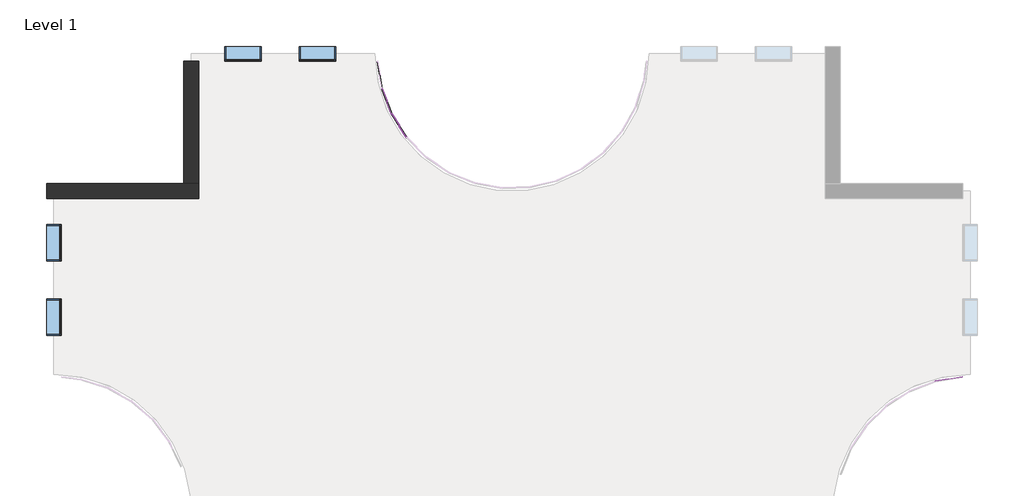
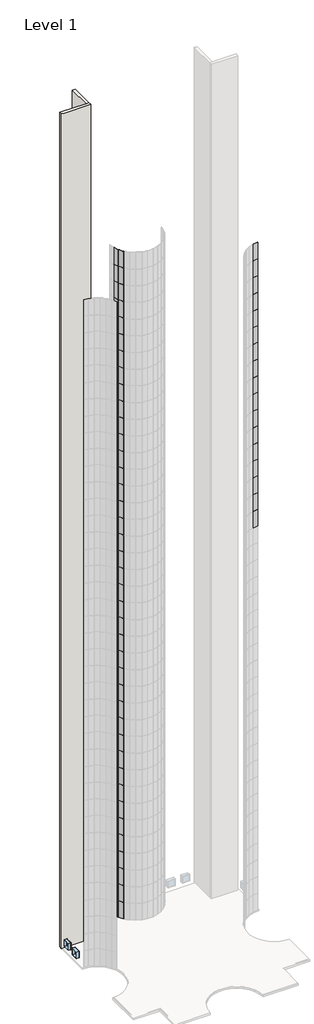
# One storey, part 15 of 19: 121 plates, 4 windows, 2 walls.
"""IFC4 building model written with IfcOpenShell, lengths in millimetres."""

from ifc_helpers import new_model, si_unit, origin, origin_with_axes, place, context, project, spatial, polyline, outline, extrude, faceted_brep, transform, mapped, element, save
from components import system_panel_glazed_d77d1ebf, window_d0035ecf, window_d434eb62

model = new_model("IFC4")

# Units and contexts
model_context = context("Model", 3, world=origin())
ifc_project = project(units=[si_unit("LENGTHUNIT", "METRE", prefix="MILLI")], contexts=[model_context])

# Site, building, storey
site = spatial("IfcSite", under=ifc_project)
building = spatial("IfcBuilding", under=site)
storey = spatial("IfcBuildingStorey", under=building, Name="Level 1", Elevation=0.0)

# Plates
placement = place(None, origin())
system_panel_glazed_shape = system_panel_glazed_d77d1ebf(model_context)
element("IfcPlate", 1, ObjectType="System Panel : Glazed", at=placement, inside=storey, context=model_context, shape_type="MappedRepresentation", body=[
    mapped(system_panel_glazed_shape, transform((-850.898382, 8349.4333414, 0.0), x_axis=(0.15870983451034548, -0.9873252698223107, 0.0), y_axis=(0.9873252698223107, 0.15870983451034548, 0.0), z_axis=(0.0, 0.0, 1.0))),
])
element("IfcPlate", 2, ObjectType="System Panel : Glazed", at=placement, inside=storey, context=model_context, shape_type="MappedRepresentation", body=[
    mapped(system_panel_glazed_shape, transform((-850.898382, 8349.4333414, 3048.0), x_axis=(0.15870983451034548, -0.9873252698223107, 0.0), y_axis=(0.9873252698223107, 0.15870983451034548, 0.0), z_axis=(0.0, 0.0, 1.0))),
])
element("IfcPlate", 3, ObjectType="System Panel : Glazed", at=placement, inside=storey, context=model_context, shape_type="MappedRepresentation", body=[
    mapped(system_panel_glazed_shape, transform((-850.898382, 8349.4333414, 6096.0), x_axis=(0.15870983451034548, -0.9873252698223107, 0.0), y_axis=(0.9873252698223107, 0.15870983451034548, 0.0), z_axis=(0.0, 0.0, 1.0))),
])
element("IfcPlate", 4, ObjectType="System Panel : Glazed", at=placement, inside=storey, context=model_context, shape_type="MappedRepresentation", body=[
    mapped(system_panel_glazed_shape, transform((-850.898382, 8349.4333414, 9144.0), x_axis=(0.15870983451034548, -0.9873252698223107, 0.0), y_axis=(0.9873252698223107, 0.15870983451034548, 0.0), z_axis=(0.0, 0.0, 1.0))),
])
element("IfcPlate", 5, ObjectType="System Panel : Glazed", at=placement, inside=storey, context=model_context, shape_type="MappedRepresentation", body=[
    mapped(system_panel_glazed_shape, transform((-850.898382, 8349.4333414, 12192.0), x_axis=(0.15870983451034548, -0.9873252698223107, 0.0), y_axis=(0.9873252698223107, 0.15870983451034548, 0.0), z_axis=(0.0, 0.0, 1.0))),
])
element("IfcPlate", 6, ObjectType="System Panel : Glazed", at=placement, inside=storey, context=model_context, shape_type="MappedRepresentation", body=[
    mapped(system_panel_glazed_shape, transform((-850.898382, 8349.4333414, 15240.0), x_axis=(0.15870983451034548, -0.9873252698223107, 0.0), y_axis=(0.9873252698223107, 0.15870983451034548, 0.0), z_axis=(0.0, 0.0, 1.0))),
])
element("IfcPlate", 7, ObjectType="System Panel : Glazed", at=placement, inside=storey, context=model_context, shape_type="MappedRepresentation", body=[
    mapped(system_panel_glazed_shape, transform((-850.898382, 8349.4333414, 18288.0), x_axis=(0.15870983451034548, -0.9873252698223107, 0.0), y_axis=(0.9873252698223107, 0.15870983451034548, 0.0), z_axis=(0.0, 0.0, 1.0))),
])
element("IfcPlate", 8, ObjectType="System Panel : Glazed", at=placement, inside=storey, context=model_context, shape_type="MappedRepresentation", body=[
    mapped(system_panel_glazed_shape, transform((-850.898382, 8349.4333414, 21336.0), x_axis=(0.15870983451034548, -0.9873252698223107, 0.0), y_axis=(0.9873252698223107, 0.15870983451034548, 0.0), z_axis=(0.0, 0.0, 1.0))),
])
element("IfcPlate", 9, ObjectType="System Panel : Glazed", at=placement, inside=storey, context=model_context, shape_type="MappedRepresentation", body=[
    mapped(system_panel_glazed_shape, transform((-850.898382, 8349.4333414, 24384.0), x_axis=(0.15870983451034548, -0.9873252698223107, 0.0), y_axis=(0.9873252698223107, 0.15870983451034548, 0.0), z_axis=(0.0, 0.0, 1.0))),
])
element("IfcPlate", 10, ObjectType="System Panel : Glazed", at=placement, inside=storey, context=model_context, shape_type="MappedRepresentation", body=[
    mapped(system_panel_glazed_shape, transform((-850.898382, 8349.4333414, 27432.0), x_axis=(0.15870983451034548, -0.9873252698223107, 0.0), y_axis=(0.9873252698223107, 0.15870983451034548, 0.0), z_axis=(0.0, 0.0, 1.0))),
])
element("IfcPlate", 11, ObjectType="System Panel : Glazed", at=placement, inside=storey, context=model_context, shape_type="MappedRepresentation", body=[
    mapped(system_panel_glazed_shape, transform((-850.898382, 8349.4333414, 30480.0), x_axis=(0.15870983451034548, -0.9873252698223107, 0.0), y_axis=(0.9873252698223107, 0.15870983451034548, 0.0), z_axis=(0.0, 0.0, 1.0))),
])
element("IfcPlate", 12, ObjectType="System Panel : Glazed", at=placement, inside=storey, context=model_context, shape_type="MappedRepresentation", body=[
    mapped(system_panel_glazed_shape, transform((-850.898382, 8349.4333414, 33528.0), x_axis=(0.15870983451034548, -0.9873252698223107, 0.0), y_axis=(0.9873252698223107, 0.15870983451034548, 0.0), z_axis=(0.0, 0.0, 1.0))),
])
element("IfcPlate", 13, ObjectType="System Panel : Glazed", at=placement, inside=storey, context=model_context, shape_type="MappedRepresentation", body=[
    mapped(system_panel_glazed_shape, transform((-850.898382, 8349.4333414, 36576.0), x_axis=(0.15870983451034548, -0.9873252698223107, 0.0), y_axis=(0.9873252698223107, 0.15870983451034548, 0.0), z_axis=(0.0, 0.0, 1.0))),
])
element("IfcPlate", 14, ObjectType="System Panel : Glazed", at=placement, inside=storey, context=model_context, shape_type="MappedRepresentation", body=[
    mapped(system_panel_glazed_shape, transform((-850.898382, 8349.4333414, 39624.0), x_axis=(0.15870983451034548, -0.9873252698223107, 0.0), y_axis=(0.9873252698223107, 0.15870983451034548, 0.0), z_axis=(0.0, 0.0, 1.0))),
])
element("IfcPlate", 15, ObjectType="System Panel : Glazed", at=placement, inside=storey, context=model_context, shape_type="MappedRepresentation", body=[
    mapped(system_panel_glazed_shape, transform((-850.898382, 8349.4333414, 42672.0), x_axis=(0.15870983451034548, -0.9873252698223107, 0.0), y_axis=(0.9873252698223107, 0.15870983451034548, 0.0), z_axis=(0.0, 0.0, 1.0))),
])
element("IfcPlate", 16, ObjectType="System Panel : Glazed", at=placement, inside=storey, context=model_context, shape_type="MappedRepresentation", body=[
    mapped(system_panel_glazed_shape, transform((-850.898382, 8349.4333414, 45720.0), x_axis=(0.15870983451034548, -0.9873252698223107, 0.0), y_axis=(0.9873252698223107, 0.15870983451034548, 0.0), z_axis=(0.0, 0.0, 1.0))),
])
element("IfcPlate", 17, ObjectType="System Panel : Glazed", at=placement, inside=storey, context=model_context, shape_type="MappedRepresentation", body=[
    mapped(system_panel_glazed_shape, transform((-850.898382, 8349.4333414, 48768.0), x_axis=(0.15870983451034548, -0.9873252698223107, 0.0), y_axis=(0.9873252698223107, 0.15870983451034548, 0.0), z_axis=(0.0, 0.0, 1.0))),
])
element("IfcPlate", 18, ObjectType="System Panel : Glazed", at=placement, inside=storey, context=model_context, shape_type="MappedRepresentation", body=[
    mapped(system_panel_glazed_shape, transform((-850.898382, 8349.4333414, 51816.0), x_axis=(0.15870983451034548, -0.9873252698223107, 0.0), y_axis=(0.9873252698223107, 0.15870983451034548, 0.0), z_axis=(0.0, 0.0, 1.0))),
])
element("IfcPlate", 19, ObjectType="System Panel : Glazed", at=placement, inside=storey, context=model_context, shape_type="MappedRepresentation", body=[
    mapped(system_panel_glazed_shape, transform((-850.898382, 8349.4333414, 54864.0), x_axis=(0.15870983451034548, -0.9873252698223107, 0.0), y_axis=(0.9873252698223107, 0.15870983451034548, 0.0), z_axis=(0.0, 0.0, 1.0))),
])
element("IfcPlate", 20, ObjectType="System Panel : Glazed", at=placement, inside=storey, context=model_context, shape_type="MappedRepresentation", body=[
    mapped(system_panel_glazed_shape, transform((-850.898382, 8349.4333414, 57912.0), x_axis=(0.15870983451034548, -0.9873252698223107, 0.0), y_axis=(0.9873252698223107, 0.15870983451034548, 0.0), z_axis=(0.0, 0.0, 1.0))),
])
element("IfcPlate", 21, ObjectType="System Panel : Glazed", at=placement, inside=storey, context=model_context, shape_type="MappedRepresentation", body=[
    mapped(system_panel_glazed_shape, transform((-850.898382, 8349.4333414, 60960.0), x_axis=(0.15870983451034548, -0.9873252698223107, 0.0), y_axis=(0.9873252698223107, 0.15870983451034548, 0.0), z_axis=(0.0, 0.0, 1.0))),
])
element("IfcPlate", 22, ObjectType="System Panel : Glazed", at=placement, inside=storey, context=model_context, shape_type="MappedRepresentation", body=[
    mapped(system_panel_glazed_shape, transform((-850.898382, 8349.4333414, 64008.0), x_axis=(0.15870983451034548, -0.9873252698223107, 0.0), y_axis=(0.9873252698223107, 0.15870983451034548, 0.0), z_axis=(0.0, 0.0, 1.0))),
])
element("IfcPlate", 23, ObjectType="System Panel : Glazed", at=placement, inside=storey, context=model_context, shape_type="MappedRepresentation", body=[
    mapped(system_panel_glazed_shape, transform((-850.898382, 8349.4333414, 67056.0), x_axis=(0.15870983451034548, -0.9873252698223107, 0.0), y_axis=(0.9873252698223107, 0.15870983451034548, 0.0), z_axis=(0.0, 0.0, 1.0))),
])
element("IfcPlate", 24, ObjectType="System Panel : Glazed", at=placement, inside=storey, context=model_context, shape_type="MappedRepresentation", body=[
    mapped(system_panel_glazed_shape, transform((-850.898382, 8349.4333414, 70104.0), x_axis=(0.15870983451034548, -0.9873252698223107, 0.0), y_axis=(0.9873252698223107, 0.15870983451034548, 0.0), z_axis=(0.0, 0.0, 1.0))),
])
element("IfcPlate", 25, ObjectType="System Panel : Glazed", at=placement, inside=storey, context=model_context, shape_type="MappedRepresentation", body=[
    mapped(system_panel_glazed_shape, transform((18055.406941, -1819.8011089, 70104.0), x_axis=(-0.9873252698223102, -0.1587098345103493, 0.0), y_axis=(0.1587098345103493, -0.9873252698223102, 0.0), z_axis=(0.0, 0.0, 1.0))),
])
element("IfcPlate", 26, ObjectType="System Panel : Glazed", at=placement, inside=storey, context=model_context, shape_type="MappedRepresentation", body=[
    mapped(system_panel_glazed_shape, transform((18055.406941, -1819.8011089, 73152.0), x_axis=(-0.9873252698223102, -0.1587098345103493, 0.0), y_axis=(0.1587098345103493, -0.9873252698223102, 0.0), z_axis=(0.0, 0.0, 1.0))),
])
element("IfcPlate", 27, ObjectType="System Panel : Glazed", at=placement, inside=storey, context=model_context, shape_type="MappedRepresentation", body=[
    mapped(system_panel_glazed_shape, transform((18055.406941, -1819.8011089, 76200.0), x_axis=(-0.9873252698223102, -0.1587098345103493, 0.0), y_axis=(0.1587098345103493, -0.9873252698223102, 0.0), z_axis=(0.0, 0.0, 1.0))),
])
element("IfcPlate", 28, ObjectType="System Panel : Glazed", at=placement, inside=storey, context=model_context, shape_type="MappedRepresentation", body=[
    mapped(system_panel_glazed_shape, transform((18055.406941, -1819.8011089, 79248.0), x_axis=(-0.9873252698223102, -0.1587098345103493, 0.0), y_axis=(0.1587098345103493, -0.9873252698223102, 0.0), z_axis=(0.0, 0.0, 1.0))),
])
element("IfcPlate", 29, ObjectType="System Panel : Glazed", at=placement, inside=storey, context=model_context, shape_type="MappedRepresentation", body=[
    mapped(system_panel_glazed_shape, transform((18055.406941, -1819.8011089, 82296.0), x_axis=(-0.9873252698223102, -0.1587098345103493, 0.0), y_axis=(0.1587098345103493, -0.9873252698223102, 0.0), z_axis=(0.0, 0.0, 1.0))),
])
element("IfcPlate", 30, ObjectType="System Panel : Glazed", at=placement, inside=storey, context=model_context, shape_type="MappedRepresentation", body=[
    mapped(system_panel_glazed_shape, transform((18055.406941, -1819.8011089, 85344.0), x_axis=(-0.9873252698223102, -0.1587098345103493, 0.0), y_axis=(0.1587098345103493, -0.9873252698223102, 0.0), z_axis=(0.0, 0.0, 1.0))),
])
element("IfcPlate", 31, ObjectType="System Panel : Glazed", at=placement, inside=storey, context=model_context, shape_type="MappedRepresentation", body=[
    mapped(system_panel_glazed_shape, transform((18055.406941, -1819.8011089, 88392.0), x_axis=(-0.9873252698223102, -0.1587098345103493, 0.0), y_axis=(0.1587098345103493, -0.9873252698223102, 0.0), z_axis=(0.0, 0.0, 1.0))),
])
element("IfcPlate", 32, ObjectType="System Panel : Glazed", at=placement, inside=storey, context=model_context, shape_type="MappedRepresentation", body=[
    mapped(system_panel_glazed_shape, transform((18055.406941, -1819.8011089, 91440.0), x_axis=(-0.9873252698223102, -0.1587098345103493, 0.0), y_axis=(0.1587098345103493, -0.9873252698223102, 0.0), z_axis=(0.0, 0.0, 1.0))),
])
element("IfcPlate", 33, ObjectType="System Panel : Glazed", at=placement, inside=storey, context=model_context, shape_type="MappedRepresentation", body=[
    mapped(system_panel_glazed_shape, transform((18055.406941, -1819.8011089, 94488.0), x_axis=(-0.9873252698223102, -0.1587098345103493, 0.0), y_axis=(0.1587098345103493, -0.9873252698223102, 0.0), z_axis=(0.0, 0.0, 1.0))),
])
element("IfcPlate", 34, ObjectType="System Panel : Glazed", at=placement, inside=storey, context=model_context, shape_type="MappedRepresentation", body=[
    mapped(system_panel_glazed_shape, transform((18055.406941, -1819.8011089, 97536.0), x_axis=(-0.9873252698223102, -0.1587098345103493, 0.0), y_axis=(0.1587098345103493, -0.9873252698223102, 0.0), z_axis=(0.0, 0.0, 1.0))),
])
element("IfcPlate", 35, ObjectType="System Panel : Glazed", at=placement, inside=storey, context=model_context, shape_type="MappedRepresentation", body=[
    mapped(system_panel_glazed_shape, transform((18055.406941, -1819.8011089, 100584.0), x_axis=(-0.9873252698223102, -0.1587098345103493, 0.0), y_axis=(0.1587098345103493, -0.9873252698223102, 0.0), z_axis=(0.0, 0.0, 1.0))),
])
element("IfcPlate", 36, ObjectType="System Panel : Glazed", at=placement, inside=storey, context=model_context, shape_type="MappedRepresentation", body=[
    mapped(system_panel_glazed_shape, transform((18055.406941, -1819.8011089, 103632.0), x_axis=(-0.9873252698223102, -0.1587098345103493, 0.0), y_axis=(0.1587098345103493, -0.9873252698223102, 0.0), z_axis=(0.0, 0.0, 1.0))),
])
element("IfcPlate", 37, ObjectType="System Panel : Glazed", at=placement, inside=storey, context=model_context, shape_type="MappedRepresentation", body=[
    mapped(system_panel_glazed_shape, transform((18055.406941, -1819.8011089, 106680.0), x_axis=(-0.9873252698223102, -0.1587098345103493, 0.0), y_axis=(0.1587098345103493, -0.9873252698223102, 0.0), z_axis=(0.0, 0.0, 1.0))),
])
element("IfcPlate", 38, ObjectType="System Panel : Glazed", at=placement, inside=storey, context=model_context, shape_type="MappedRepresentation", body=[
    mapped(system_panel_glazed_shape, transform((18055.406941, -1819.8011089, 109728.0), x_axis=(-0.9873252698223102, -0.1587098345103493, 0.0), y_axis=(0.1587098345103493, -0.9873252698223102, 0.0), z_axis=(0.0, 0.0, 1.0))),
])
element("IfcPlate", 39, ObjectType="System Panel : Glazed", at=placement, inside=storey, context=model_context, shape_type="MappedRepresentation", body=[
    mapped(system_panel_glazed_shape, transform((18055.406941, -1819.8011089, 112776.0), x_axis=(-0.9873252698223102, -0.1587098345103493, 0.0), y_axis=(0.1587098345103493, -0.9873252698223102, 0.0), z_axis=(0.0, 0.0, 1.0))),
])
element("IfcPlate", 40, ObjectType="System Panel : Glazed", at=placement, inside=storey, context=model_context, shape_type="MappedRepresentation", body=[
    mapped(system_panel_glazed_shape, transform((18055.406941, -1819.8011089, 115824.0), x_axis=(-0.9873252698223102, -0.1587098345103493, 0.0), y_axis=(0.1587098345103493, -0.9873252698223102, 0.0), z_axis=(0.0, 0.0, 1.0))),
])
element("IfcPlate", 41, ObjectType="System Panel : Glazed", at=placement, inside=storey, context=model_context, shape_type="MappedRepresentation", body=[
    mapped(system_panel_glazed_shape, transform((18055.406941, -1819.8011089, 118872.0), x_axis=(-0.9873252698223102, -0.1587098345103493, 0.0), y_axis=(0.1587098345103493, -0.9873252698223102, 0.0), z_axis=(0.0, 0.0, 1.0))),
])
element("IfcPlate", 42, ObjectType="System Panel : Glazed", at=placement, inside=storey, context=model_context, shape_type="MappedRepresentation", body=[
    mapped(system_panel_glazed_shape, transform((-615.0045383, 7470.9982602, 0.0), x_axis=(0.35724345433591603, -0.9340113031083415, 0.0), y_axis=(0.9340113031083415, 0.35724345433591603, 0.0), z_axis=(0.0, 0.0, 1.0))),
])
element("IfcPlate", 43, ObjectType="System Panel : Glazed", at=placement, inside=storey, context=model_context, shape_type="MappedRepresentation", body=[
    mapped(system_panel_glazed_shape, transform((-615.0045383, 7470.9982602, 3048.0), x_axis=(0.35724345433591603, -0.9340113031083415, 0.0), y_axis=(0.9340113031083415, 0.35724345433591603, 0.0), z_axis=(0.0, 0.0, 1.0))),
])
element("IfcPlate", 44, ObjectType="System Panel : Glazed", at=placement, inside=storey, context=model_context, shape_type="MappedRepresentation", body=[
    mapped(system_panel_glazed_shape, transform((-615.0045383, 7470.9982602, 6096.0), x_axis=(0.35724345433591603, -0.9340113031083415, 0.0), y_axis=(0.9340113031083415, 0.35724345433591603, 0.0), z_axis=(0.0, 0.0, 1.0))),
])
element("IfcPlate", 45, ObjectType="System Panel : Glazed", at=placement, inside=storey, context=model_context, shape_type="MappedRepresentation", body=[
    mapped(system_panel_glazed_shape, transform((-615.0045383, 7470.9982602, 9144.0), x_axis=(0.35724345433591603, -0.9340113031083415, 0.0), y_axis=(0.9340113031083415, 0.35724345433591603, 0.0), z_axis=(0.0, 0.0, 1.0))),
])
element("IfcPlate", 46, ObjectType="System Panel : Glazed", at=placement, inside=storey, context=model_context, shape_type="MappedRepresentation", body=[
    mapped(system_panel_glazed_shape, transform((-615.0045383, 7470.9982602, 12192.0), x_axis=(0.35724345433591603, -0.9340113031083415, 0.0), y_axis=(0.9340113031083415, 0.35724345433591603, 0.0), z_axis=(0.0, 0.0, 1.0))),
])
element("IfcPlate", 47, ObjectType="System Panel : Glazed", at=placement, inside=storey, context=model_context, shape_type="MappedRepresentation", body=[
    mapped(system_panel_glazed_shape, transform((-615.0045383, 7470.9982602, 15240.0), x_axis=(0.35724345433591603, -0.9340113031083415, 0.0), y_axis=(0.9340113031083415, 0.35724345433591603, 0.0), z_axis=(0.0, 0.0, 1.0))),
])
element("IfcPlate", 48, ObjectType="System Panel : Glazed", at=placement, inside=storey, context=model_context, shape_type="MappedRepresentation", body=[
    mapped(system_panel_glazed_shape, transform((-615.0045383, 7470.9982602, 18288.0), x_axis=(0.35724345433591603, -0.9340113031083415, 0.0), y_axis=(0.9340113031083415, 0.35724345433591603, 0.0), z_axis=(0.0, 0.0, 1.0))),
])
element("IfcPlate", 49, ObjectType="System Panel : Glazed", at=placement, inside=storey, context=model_context, shape_type="MappedRepresentation", body=[
    mapped(system_panel_glazed_shape, transform((-615.0045383, 7470.9982602, 21336.0), x_axis=(0.35724345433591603, -0.9340113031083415, 0.0), y_axis=(0.9340113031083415, 0.35724345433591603, 0.0), z_axis=(0.0, 0.0, 1.0))),
])
element("IfcPlate", 50, ObjectType="System Panel : Glazed", at=placement, inside=storey, context=model_context, shape_type="MappedRepresentation", body=[
    mapped(system_panel_glazed_shape, transform((-615.0045383, 7470.9982602, 24384.0), x_axis=(0.35724345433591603, -0.9340113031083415, 0.0), y_axis=(0.9340113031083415, 0.35724345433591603, 0.0), z_axis=(0.0, 0.0, 1.0))),
])
element("IfcPlate", 51, ObjectType="System Panel : Glazed", at=placement, inside=storey, context=model_context, shape_type="MappedRepresentation", body=[
    mapped(system_panel_glazed_shape, transform((-615.0045383, 7470.9982602, 27432.0), x_axis=(0.35724345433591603, -0.9340113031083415, 0.0), y_axis=(0.9340113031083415, 0.35724345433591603, 0.0), z_axis=(0.0, 0.0, 1.0))),
])
element("IfcPlate", 52, ObjectType="System Panel : Glazed", at=placement, inside=storey, context=model_context, shape_type="MappedRepresentation", body=[
    mapped(system_panel_glazed_shape, transform((-615.0045383, 7470.9982602, 30480.0), x_axis=(0.35724345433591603, -0.9340113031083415, 0.0), y_axis=(0.9340113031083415, 0.35724345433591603, 0.0), z_axis=(0.0, 0.0, 1.0))),
])
element("IfcPlate", 53, ObjectType="System Panel : Glazed", at=placement, inside=storey, context=model_context, shape_type="MappedRepresentation", body=[
    mapped(system_panel_glazed_shape, transform((-615.0045383, 7470.9982602, 33528.0), x_axis=(0.35724345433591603, -0.9340113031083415, 0.0), y_axis=(0.9340113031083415, 0.35724345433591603, 0.0), z_axis=(0.0, 0.0, 1.0))),
])
element("IfcPlate", 54, ObjectType="System Panel : Glazed", at=placement, inside=storey, context=model_context, shape_type="MappedRepresentation", body=[
    mapped(system_panel_glazed_shape, transform((-615.0045383, 7470.9982602, 36576.0), x_axis=(0.35724345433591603, -0.9340113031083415, 0.0), y_axis=(0.9340113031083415, 0.35724345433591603, 0.0), z_axis=(0.0, 0.0, 1.0))),
])
element("IfcPlate", 55, ObjectType="System Panel : Glazed", at=placement, inside=storey, context=model_context, shape_type="MappedRepresentation", body=[
    mapped(system_panel_glazed_shape, transform((-615.0045383, 7470.9982602, 39624.0), x_axis=(0.35724345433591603, -0.9340113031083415, 0.0), y_axis=(0.9340113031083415, 0.35724345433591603, 0.0), z_axis=(0.0, 0.0, 1.0))),
])
element("IfcPlate", 56, ObjectType="System Panel : Glazed", at=placement, inside=storey, context=model_context, shape_type="MappedRepresentation", body=[
    mapped(system_panel_glazed_shape, transform((-615.0045383, 7470.9982602, 42672.0), x_axis=(0.35724345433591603, -0.9340113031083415, 0.0), y_axis=(0.9340113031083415, 0.35724345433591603, 0.0), z_axis=(0.0, 0.0, 1.0))),
])
element("IfcPlate", 57, ObjectType="System Panel : Glazed", at=placement, inside=storey, context=model_context, shape_type="MappedRepresentation", body=[
    mapped(system_panel_glazed_shape, transform((-615.0045383, 7470.9982602, 45720.0), x_axis=(0.35724345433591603, -0.9340113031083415, 0.0), y_axis=(0.9340113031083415, 0.35724345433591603, 0.0), z_axis=(0.0, 0.0, 1.0))),
])
element("IfcPlate", 58, ObjectType="System Panel : Glazed", at=placement, inside=storey, context=model_context, shape_type="MappedRepresentation", body=[
    mapped(system_panel_glazed_shape, transform((-615.0045383, 7470.9982602, 48768.0), x_axis=(0.35724345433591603, -0.9340113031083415, 0.0), y_axis=(0.9340113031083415, 0.35724345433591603, 0.0), z_axis=(0.0, 0.0, 1.0))),
])
element("IfcPlate", 59, ObjectType="System Panel : Glazed", at=placement, inside=storey, context=model_context, shape_type="MappedRepresentation", body=[
    mapped(system_panel_glazed_shape, transform((-615.0045383, 7470.9982602, 51816.0), x_axis=(0.35724345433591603, -0.9340113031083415, 0.0), y_axis=(0.9340113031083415, 0.35724345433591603, 0.0), z_axis=(0.0, 0.0, 1.0))),
])
element("IfcPlate", 60, ObjectType="System Panel : Glazed", at=placement, inside=storey, context=model_context, shape_type="MappedRepresentation", body=[
    mapped(system_panel_glazed_shape, transform((-615.0045383, 7470.9982602, 54864.0), x_axis=(0.35724345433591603, -0.9340113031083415, 0.0), y_axis=(0.9340113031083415, 0.35724345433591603, 0.0), z_axis=(0.0, 0.0, 1.0))),
])
element("IfcPlate", 61, ObjectType="System Panel : Glazed", at=placement, inside=storey, context=model_context, shape_type="MappedRepresentation", body=[
    mapped(system_panel_glazed_shape, transform((-615.0045383, 7470.9982602, 57912.0), x_axis=(0.35724345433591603, -0.9340113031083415, 0.0), y_axis=(0.9340113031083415, 0.35724345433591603, 0.0), z_axis=(0.0, 0.0, 1.0))),
])
element("IfcPlate", 62, ObjectType="System Panel : Glazed", at=placement, inside=storey, context=model_context, shape_type="MappedRepresentation", body=[
    mapped(system_panel_glazed_shape, transform((-615.0045383, 7470.9982602, 60960.0), x_axis=(0.35724345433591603, -0.9340113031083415, 0.0), y_axis=(0.9340113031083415, 0.35724345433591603, 0.0), z_axis=(0.0, 0.0, 1.0))),
])
element("IfcPlate", 63, ObjectType="System Panel : Glazed", at=placement, inside=storey, context=model_context, shape_type="MappedRepresentation", body=[
    mapped(system_panel_glazed_shape, transform((-615.0045383, 7470.9982602, 64008.0), x_axis=(0.35724345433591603, -0.9340113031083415, 0.0), y_axis=(0.9340113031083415, 0.35724345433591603, 0.0), z_axis=(0.0, 0.0, 1.0))),
])
element("IfcPlate", 64, ObjectType="System Panel : Glazed", at=placement, inside=storey, context=model_context, shape_type="MappedRepresentation", body=[
    mapped(system_panel_glazed_shape, transform((-615.0045383, 7470.9982602, 67056.0), x_axis=(0.35724345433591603, -0.9340113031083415, 0.0), y_axis=(0.9340113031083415, 0.35724345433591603, 0.0), z_axis=(0.0, 0.0, 1.0))),
])
element("IfcPlate", 65, ObjectType="System Panel : Glazed", at=placement, inside=storey, context=model_context, shape_type="MappedRepresentation", body=[
    mapped(system_panel_glazed_shape, transform((-615.0045383, 7470.9982602, 70104.0), x_axis=(0.35724345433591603, -0.9340113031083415, 0.0), y_axis=(0.9340113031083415, 0.35724345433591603, 0.0), z_axis=(0.0, 0.0, 1.0))),
])
element("IfcPlate", 66, ObjectType="System Panel : Glazed", at=placement, inside=storey, context=model_context, shape_type="MappedRepresentation", body=[
    mapped(system_panel_glazed_shape, transform((-615.0045383, 7470.9982602, 73152.0), x_axis=(0.35724345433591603, -0.9340113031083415, 0.0), y_axis=(0.9340113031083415, 0.35724345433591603, 0.0), z_axis=(0.0, 0.0, 1.0))),
])
element("IfcPlate", 67, ObjectType="System Panel : Glazed", at=placement, inside=storey, context=model_context, shape_type="MappedRepresentation", body=[
    mapped(system_panel_glazed_shape, transform((-615.0045383, 7470.9982602, 76200.0), x_axis=(0.35724345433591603, -0.9340113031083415, 0.0), y_axis=(0.9340113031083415, 0.35724345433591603, 0.0), z_axis=(0.0, 0.0, 1.0))),
])
element("IfcPlate", 68, ObjectType="System Panel : Glazed", at=placement, inside=storey, context=model_context, shape_type="MappedRepresentation", body=[
    mapped(system_panel_glazed_shape, transform((-615.0045383, 7470.9982602, 79248.0), x_axis=(0.35724345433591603, -0.9340113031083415, 0.0), y_axis=(0.9340113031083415, 0.35724345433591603, 0.0), z_axis=(0.0, 0.0, 1.0))),
])
element("IfcPlate", 69, ObjectType="System Panel : Glazed", at=placement, inside=storey, context=model_context, shape_type="MappedRepresentation", body=[
    mapped(system_panel_glazed_shape, transform((-615.0045383, 7470.9982602, 82296.0), x_axis=(0.35724345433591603, -0.9340113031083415, 0.0), y_axis=(0.9340113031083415, 0.35724345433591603, 0.0), z_axis=(0.0, 0.0, 1.0))),
])
element("IfcPlate", 70, ObjectType="System Panel : Glazed", at=placement, inside=storey, context=model_context, shape_type="MappedRepresentation", body=[
    mapped(system_panel_glazed_shape, transform((-615.0045383, 7470.9982602, 85344.0), x_axis=(0.35724345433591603, -0.9340113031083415, 0.0), y_axis=(0.9340113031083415, 0.35724345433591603, 0.0), z_axis=(0.0, 0.0, 1.0))),
])
element("IfcPlate", 71, ObjectType="System Panel : Glazed", at=placement, inside=storey, context=model_context, shape_type="MappedRepresentation", body=[
    mapped(system_panel_glazed_shape, transform((-615.0045383, 7470.9982602, 88392.0), x_axis=(0.35724345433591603, -0.9340113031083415, 0.0), y_axis=(0.9340113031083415, 0.35724345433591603, 0.0), z_axis=(0.0, 0.0, 1.0))),
])
element("IfcPlate", 72, ObjectType="System Panel : Glazed", at=placement, inside=storey, context=model_context, shape_type="MappedRepresentation", body=[
    mapped(system_panel_glazed_shape, transform((-615.0045383, 7470.9982602, 91440.0), x_axis=(0.35724345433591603, -0.9340113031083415, 0.0), y_axis=(0.9340113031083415, 0.35724345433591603, 0.0), z_axis=(0.0, 0.0, 1.0))),
])
element("IfcPlate", 73, ObjectType="System Panel : Glazed", at=placement, inside=storey, context=model_context, shape_type="MappedRepresentation", body=[
    mapped(system_panel_glazed_shape, transform((-615.0045383, 7470.9982602, 94488.0), x_axis=(0.35724345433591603, -0.9340113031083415, 0.0), y_axis=(0.9340113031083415, 0.35724345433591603, 0.0), z_axis=(0.0, 0.0, 1.0))),
])
element("IfcPlate", 74, ObjectType="System Panel : Glazed", at=placement, inside=storey, context=model_context, shape_type="MappedRepresentation", body=[
    mapped(system_panel_glazed_shape, transform((-615.0045383, 7470.9982602, 97536.0), x_axis=(0.35724345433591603, -0.9340113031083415, 0.0), y_axis=(0.9340113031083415, 0.35724345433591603, 0.0), z_axis=(0.0, 0.0, 1.0))),
])
element("IfcPlate", 75, ObjectType="System Panel : Glazed", at=placement, inside=storey, context=model_context, shape_type="MappedRepresentation", body=[
    mapped(system_panel_glazed_shape, transform((-615.0045383, 7470.9982602, 100584.0), x_axis=(0.35724345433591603, -0.9340113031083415, 0.0), y_axis=(0.9340113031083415, 0.35724345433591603, 0.0), z_axis=(0.0, 0.0, 1.0))),
])
element("IfcPlate", 76, ObjectType="System Panel : Glazed", at=placement, inside=storey, context=model_context, shape_type="MappedRepresentation", body=[
    mapped(system_panel_glazed_shape, transform((-204.4736202, 6659.3588929, 0.0), x_axis=(0.5406806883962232, -0.8412279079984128, 0.0), y_axis=(0.8412279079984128, 0.5406806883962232, 0.0), z_axis=(0.0, 0.0, 1.0))),
])
element("IfcPlate", 77, ObjectType="System Panel : Glazed", at=placement, inside=storey, context=model_context, shape_type="MappedRepresentation", body=[
    mapped(system_panel_glazed_shape, transform((-204.4736202, 6659.3588929, 3048.0), x_axis=(0.5406806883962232, -0.8412279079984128, 0.0), y_axis=(0.8412279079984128, 0.5406806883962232, 0.0), z_axis=(0.0, 0.0, 1.0))),
])
element("IfcPlate", 78, ObjectType="System Panel : Glazed", at=placement, inside=storey, context=model_context, shape_type="MappedRepresentation", body=[
    mapped(system_panel_glazed_shape, transform((-204.4736202, 6659.3588929, 6096.0), x_axis=(0.5406806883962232, -0.8412279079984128, 0.0), y_axis=(0.8412279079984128, 0.5406806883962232, 0.0), z_axis=(0.0, 0.0, 1.0))),
])
element("IfcPlate", 79, ObjectType="System Panel : Glazed", at=placement, inside=storey, context=model_context, shape_type="MappedRepresentation", body=[
    mapped(system_panel_glazed_shape, transform((-204.4736202, 6659.3588929, 9144.0), x_axis=(0.5406806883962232, -0.8412279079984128, 0.0), y_axis=(0.8412279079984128, 0.5406806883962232, 0.0), z_axis=(0.0, 0.0, 1.0))),
])
element("IfcPlate", 80, ObjectType="System Panel : Glazed", at=placement, inside=storey, context=model_context, shape_type="MappedRepresentation", body=[
    mapped(system_panel_glazed_shape, transform((-204.4736202, 6659.3588929, 12192.0), x_axis=(0.5406806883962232, -0.8412279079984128, 0.0), y_axis=(0.8412279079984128, 0.5406806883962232, 0.0), z_axis=(0.0, 0.0, 1.0))),
])
element("IfcPlate", 81, ObjectType="System Panel : Glazed", at=placement, inside=storey, context=model_context, shape_type="MappedRepresentation", body=[
    mapped(system_panel_glazed_shape, transform((-204.4736202, 6659.3588929, 15240.0), x_axis=(0.5406806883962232, -0.8412279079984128, 0.0), y_axis=(0.8412279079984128, 0.5406806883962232, 0.0), z_axis=(0.0, 0.0, 1.0))),
])
element("IfcPlate", 82, ObjectType="System Panel : Glazed", at=placement, inside=storey, context=model_context, shape_type="MappedRepresentation", body=[
    mapped(system_panel_glazed_shape, transform((-204.4736202, 6659.3588929, 18288.0), x_axis=(0.5406806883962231, -0.841227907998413, 0.0), y_axis=(0.841227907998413, 0.5406806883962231, 0.0), z_axis=(0.0, 0.0, 1.0))),
])
element("IfcPlate", 83, ObjectType="System Panel : Glazed", at=placement, inside=storey, context=model_context, shape_type="MappedRepresentation", body=[
    mapped(system_panel_glazed_shape, transform((-204.4736202, 6659.3588929, 21336.0), x_axis=(0.5406806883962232, -0.8412279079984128, 0.0), y_axis=(0.8412279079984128, 0.5406806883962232, 0.0), z_axis=(0.0, 0.0, 1.0))),
])
element("IfcPlate", 84, ObjectType="System Panel : Glazed", at=placement, inside=storey, context=model_context, shape_type="MappedRepresentation", body=[
    mapped(system_panel_glazed_shape, transform((-204.4736202, 6659.3588929, 24384.0), x_axis=(0.5406806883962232, -0.8412279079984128, 0.0), y_axis=(0.8412279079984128, 0.5406806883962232, 0.0), z_axis=(0.0, 0.0, 1.0))),
])
element("IfcPlate", 85, ObjectType="System Panel : Glazed", at=placement, inside=storey, context=model_context, shape_type="MappedRepresentation", body=[
    mapped(system_panel_glazed_shape, transform((-204.4736202, 6659.3588929, 27432.0), x_axis=(0.5406806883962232, -0.8412279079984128, 0.0), y_axis=(0.8412279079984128, 0.5406806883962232, 0.0), z_axis=(0.0, 0.0, 1.0))),
])
element("IfcPlate", 86, ObjectType="System Panel : Glazed", at=placement, inside=storey, context=model_context, shape_type="MappedRepresentation", body=[
    mapped(system_panel_glazed_shape, transform((-204.4736202, 6659.3588929, 30480.0), x_axis=(0.5406806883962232, -0.8412279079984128, 0.0), y_axis=(0.8412279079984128, 0.5406806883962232, 0.0), z_axis=(0.0, 0.0, 1.0))),
])
element("IfcPlate", 87, ObjectType="System Panel : Glazed", at=placement, inside=storey, context=model_context, shape_type="MappedRepresentation", body=[
    mapped(system_panel_glazed_shape, transform((-204.4736202, 6659.3588929, 33528.0), x_axis=(0.5406806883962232, -0.8412279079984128, 0.0), y_axis=(0.8412279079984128, 0.5406806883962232, 0.0), z_axis=(0.0, 0.0, 1.0))),
])
element("IfcPlate", 88, ObjectType="System Panel : Glazed", at=placement, inside=storey, context=model_context, shape_type="MappedRepresentation", body=[
    mapped(system_panel_glazed_shape, transform((-204.4736202, 6659.3588929, 36576.0), x_axis=(0.5406806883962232, -0.8412279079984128, 0.0), y_axis=(0.8412279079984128, 0.5406806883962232, 0.0), z_axis=(0.0, 0.0, 1.0))),
])
element("IfcPlate", 89, ObjectType="System Panel : Glazed", at=placement, inside=storey, context=model_context, shape_type="MappedRepresentation", body=[
    mapped(system_panel_glazed_shape, transform((-204.4736202, 6659.3588929, 39624.0), x_axis=(0.5406806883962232, -0.8412279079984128, 0.0), y_axis=(0.8412279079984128, 0.5406806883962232, 0.0), z_axis=(0.0, 0.0, 1.0))),
])
element("IfcPlate", 90, ObjectType="System Panel : Glazed", at=placement, inside=storey, context=model_context, shape_type="MappedRepresentation", body=[
    mapped(system_panel_glazed_shape, transform((-204.4736202, 6659.3588929, 42672.0), x_axis=(0.5406806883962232, -0.8412279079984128, 0.0), y_axis=(0.8412279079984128, 0.5406806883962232, 0.0), z_axis=(0.0, 0.0, 1.0))),
])
element("IfcPlate", 91, ObjectType="System Panel : Glazed", at=placement, inside=storey, context=model_context, shape_type="MappedRepresentation", body=[
    mapped(system_panel_glazed_shape, transform((-204.4736202, 6659.3588929, 45720.0), x_axis=(0.5406806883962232, -0.8412279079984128, 0.0), y_axis=(0.8412279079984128, 0.5406806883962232, 0.0), z_axis=(0.0, 0.0, 1.0))),
])
element("IfcPlate", 92, ObjectType="System Panel : Glazed", at=placement, inside=storey, context=model_context, shape_type="MappedRepresentation", body=[
    mapped(system_panel_glazed_shape, transform((-204.4736202, 6659.3588929, 48768.0), x_axis=(0.5406806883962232, -0.8412279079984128, 0.0), y_axis=(0.8412279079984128, 0.5406806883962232, 0.0), z_axis=(0.0, 0.0, 1.0))),
])
element("IfcPlate", 93, ObjectType="System Panel : Glazed", at=placement, inside=storey, context=model_context, shape_type="MappedRepresentation", body=[
    mapped(system_panel_glazed_shape, transform((-204.4736202, 6659.3588929, 51816.0), x_axis=(0.5406806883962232, -0.8412279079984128, 0.0), y_axis=(0.8412279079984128, 0.5406806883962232, 0.0), z_axis=(0.0, 0.0, 1.0))),
])
element("IfcPlate", 94, ObjectType="System Panel : Glazed", at=placement, inside=storey, context=model_context, shape_type="MappedRepresentation", body=[
    mapped(system_panel_glazed_shape, transform((-204.4736202, 6659.3588929, 54864.0), x_axis=(0.5406806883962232, -0.8412279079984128, 0.0), y_axis=(0.8412279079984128, 0.5406806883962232, 0.0), z_axis=(0.0, 0.0, 1.0))),
])
element("IfcPlate", 95, ObjectType="System Panel : Glazed", at=placement, inside=storey, context=model_context, shape_type="MappedRepresentation", body=[
    mapped(system_panel_glazed_shape, transform((-204.4736202, 6659.3588929, 57912.0), x_axis=(0.5406806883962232, -0.8412279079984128, 0.0), y_axis=(0.8412279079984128, 0.5406806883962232, 0.0), z_axis=(0.0, 0.0, 1.0))),
])
element("IfcPlate", 96, ObjectType="System Panel : Glazed", at=placement, inside=storey, context=model_context, shape_type="MappedRepresentation", body=[
    mapped(system_panel_glazed_shape, transform((-204.4736202, 6659.3588929, 60960.0), x_axis=(0.5406806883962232, -0.8412279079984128, 0.0), y_axis=(0.8412279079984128, 0.5406806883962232, 0.0), z_axis=(0.0, 0.0, 1.0))),
])
element("IfcPlate", 97, ObjectType="System Panel : Glazed", at=placement, inside=storey, context=model_context, shape_type="MappedRepresentation", body=[
    mapped(system_panel_glazed_shape, transform((-204.4736202, 6659.3588929, 64008.0), x_axis=(0.5406806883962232, -0.8412279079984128, 0.0), y_axis=(0.8412279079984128, 0.5406806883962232, 0.0), z_axis=(0.0, 0.0, 1.0))),
])
element("IfcPlate", 98, ObjectType="System Panel : Glazed", at=placement, inside=storey, context=model_context, shape_type="MappedRepresentation", body=[
    mapped(system_panel_glazed_shape, transform((-204.4736202, 6659.3588929, 67056.0), x_axis=(0.5406806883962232, -0.8412279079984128, 0.0), y_axis=(0.8412279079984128, 0.5406806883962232, 0.0), z_axis=(0.0, 0.0, 1.0))),
])
element("IfcPlate", 99, ObjectType="System Panel : Glazed", at=placement, inside=storey, context=model_context, shape_type="MappedRepresentation", body=[
    mapped(system_panel_glazed_shape, transform((-204.4736202, 6659.3588929, 70104.0), x_axis=(0.5406806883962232, -0.8412279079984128, 0.0), y_axis=(0.8412279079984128, 0.5406806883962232, 0.0), z_axis=(0.0, 0.0, 1.0))),
])
element("IfcPlate", 100, ObjectType="System Panel : Glazed", at=placement, inside=storey, context=model_context, shape_type="MappedRepresentation", body=[
    mapped(system_panel_glazed_shape, transform((-204.4736202, 6659.3588929, 73152.0), x_axis=(0.5406806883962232, -0.8412279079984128, 0.0), y_axis=(0.8412279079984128, 0.5406806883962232, 0.0), z_axis=(0.0, 0.0, 1.0))),
])
element("IfcPlate", 101, ObjectType="System Panel : Glazed", at=placement, inside=storey, context=model_context, shape_type="MappedRepresentation", body=[
    mapped(system_panel_glazed_shape, transform((-204.4736202, 6659.3588929, 76200.0), x_axis=(0.5406806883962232, -0.8412279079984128, 0.0), y_axis=(0.8412279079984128, 0.5406806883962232, 0.0), z_axis=(0.0, 0.0, 1.0))),
])
element("IfcPlate", 102, ObjectType="System Panel : Glazed", at=placement, inside=storey, context=model_context, shape_type="MappedRepresentation", body=[
    mapped(system_panel_glazed_shape, transform((-204.4736202, 6659.3588929, 79248.0), x_axis=(0.5406806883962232, -0.8412279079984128, 0.0), y_axis=(0.8412279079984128, 0.5406806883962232, 0.0), z_axis=(0.0, 0.0, 1.0))),
])
element("IfcPlate", 103, ObjectType="System Panel : Glazed", at=placement, inside=storey, context=model_context, shape_type="MappedRepresentation", body=[
    mapped(system_panel_glazed_shape, transform((-204.4736202, 6659.3588929, 82296.0), x_axis=(0.5406806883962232, -0.8412279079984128, 0.0), y_axis=(0.8412279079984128, 0.5406806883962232, 0.0), z_axis=(0.0, 0.0, 1.0))),
])
element("IfcPlate", 104, ObjectType="System Panel : Glazed", at=placement, inside=storey, context=model_context, shape_type="MappedRepresentation", body=[
    mapped(system_panel_glazed_shape, transform((-204.4736202, 6659.3588929, 85344.0), x_axis=(0.5406806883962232, -0.8412279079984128, 0.0), y_axis=(0.8412279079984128, 0.5406806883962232, 0.0), z_axis=(0.0, 0.0, 1.0))),
])
element("IfcPlate", 105, ObjectType="System Panel : Glazed", at=placement, inside=storey, context=model_context, shape_type="MappedRepresentation", body=[
    mapped(system_panel_glazed_shape, transform((-204.4736202, 6659.3588929, 88392.0), x_axis=(0.5406806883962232, -0.8412279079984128, 0.0), y_axis=(0.8412279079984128, 0.5406806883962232, 0.0), z_axis=(0.0, 0.0, 1.0))),
])
element("IfcPlate", 106, ObjectType="System Panel : Glazed", at=placement, inside=storey, context=model_context, shape_type="MappedRepresentation", body=[
    mapped(system_panel_glazed_shape, transform((-204.4736202, 6659.3588929, 91440.0), x_axis=(0.5406806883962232, -0.8412279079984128, 0.0), y_axis=(0.8412279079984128, 0.5406806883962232, 0.0), z_axis=(0.0, 0.0, 1.0))),
])
element("IfcPlate", 107, ObjectType="System Panel : Glazed", at=placement, inside=storey, context=model_context, shape_type="MappedRepresentation", body=[
    mapped(system_panel_glazed_shape, transform((-204.4736202, 6659.3588929, 94488.0), x_axis=(0.5406806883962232, -0.8412279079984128, 0.0), y_axis=(0.8412279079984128, 0.5406806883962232, 0.0), z_axis=(0.0, 0.0, 1.0))),
])
element("IfcPlate", 108, ObjectType="System Panel : Glazed", at=placement, inside=storey, context=model_context, shape_type="MappedRepresentation", body=[
    mapped(system_panel_glazed_shape, transform((-204.4736202, 6659.3588929, 97536.0), x_axis=(0.5406806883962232, -0.8412279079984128, 0.0), y_axis=(0.8412279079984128, 0.5406806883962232, 0.0), z_axis=(0.0, 0.0, 1.0))),
])
element("IfcPlate", 109, ObjectType="System Panel : Glazed", at=placement, inside=storey, context=model_context, shape_type="MappedRepresentation", body=[
    mapped(system_panel_glazed_shape, transform((-204.4736202, 6659.3588929, 100584.0), x_axis=(0.5406806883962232, -0.8412279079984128, 0.0), y_axis=(0.8412279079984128, 0.5406806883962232, 0.0), z_axis=(0.0, 0.0, 1.0))),
])
element("IfcPlate", 110, ObjectType="System Panel : Glazed", at=placement, inside=storey, context=model_context, shape_type="MappedRepresentation", body=[
    mapped(system_panel_glazed_shape, transform((-615.0045383, 7470.9982602, 103632.0), x_axis=(0.35724345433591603, -0.9340113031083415, 0.0), y_axis=(0.9340113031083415, 0.35724345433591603, 0.0), z_axis=(0.0, 0.0, 1.0))),
])
element("IfcPlate", 111, ObjectType="System Panel : Glazed", at=placement, inside=storey, context=model_context, shape_type="MappedRepresentation", body=[
    mapped(system_panel_glazed_shape, transform((-204.4736202, 6659.3588929, 103632.0), x_axis=(0.5406806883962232, -0.8412279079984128, 0.0), y_axis=(0.8412279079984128, 0.5406806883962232, 0.0), z_axis=(0.0, 0.0, 1.0))),
])
element("IfcPlate", 112, ObjectType="System Panel : Glazed", at=placement, inside=storey, context=model_context, shape_type="MappedRepresentation", body=[
    mapped(system_panel_glazed_shape, transform((-615.0045383, 7470.9982602, 106680.0), x_axis=(0.35724345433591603, -0.9340113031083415, 0.0), y_axis=(0.9340113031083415, 0.35724345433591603, 0.0), z_axis=(0.0, 0.0, 1.0))),
])
element("IfcPlate", 113, ObjectType="System Panel : Glazed", at=placement, inside=storey, context=model_context, shape_type="MappedRepresentation", body=[
    mapped(system_panel_glazed_shape, transform((-204.4736202, 6659.3588929, 106680.0), x_axis=(0.5406806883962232, -0.8412279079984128, 0.0), y_axis=(0.8412279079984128, 0.5406806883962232, 0.0), z_axis=(0.0, 0.0, 1.0))),
])
element("IfcPlate", 114, ObjectType="System Panel : Glazed", at=placement, inside=storey, context=model_context, shape_type="MappedRepresentation", body=[
    mapped(system_panel_glazed_shape, transform((-615.0045383, 7470.9982602, 109728.0), x_axis=(0.35724345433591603, -0.9340113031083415, 0.0), y_axis=(0.9340113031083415, 0.35724345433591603, 0.0), z_axis=(0.0, 0.0, 1.0))),
])
element("IfcPlate", 115, ObjectType="System Panel : Glazed", at=placement, inside=storey, context=model_context, shape_type="MappedRepresentation", body=[
    mapped(system_panel_glazed_shape, transform((-204.4736202, 6659.3588929, 109728.0), x_axis=(0.5406806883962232, -0.8412279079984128, 0.0), y_axis=(0.8412279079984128, 0.5406806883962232, 0.0), z_axis=(0.0, 0.0, 1.0))),
])
element("IfcPlate", 116, ObjectType="System Panel : Glazed", at=placement, inside=storey, context=model_context, shape_type="MappedRepresentation", body=[
    mapped(system_panel_glazed_shape, transform((-615.0045383, 7470.9982602, 112776.0), x_axis=(0.35724345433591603, -0.9340113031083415, 0.0), y_axis=(0.9340113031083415, 0.35724345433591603, 0.0), z_axis=(0.0, 0.0, 1.0))),
])
element("IfcPlate", 117, ObjectType="System Panel : Glazed", at=placement, inside=storey, context=model_context, shape_type="MappedRepresentation", body=[
    mapped(system_panel_glazed_shape, transform((-204.4736202, 6659.3588929, 112776.0), x_axis=(0.5406806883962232, -0.8412279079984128, 0.0), y_axis=(0.8412279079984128, 0.5406806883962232, 0.0), z_axis=(0.0, 0.0, 1.0))),
])
element("IfcPlate", 118, ObjectType="System Panel : Glazed", at=placement, inside=storey, context=model_context, shape_type="MappedRepresentation", body=[
    mapped(system_panel_glazed_shape, transform((-615.0045383, 7470.9982602, 115824.0), x_axis=(0.35724345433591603, -0.9340113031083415, 0.0), y_axis=(0.9340113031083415, 0.35724345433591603, 0.0), z_axis=(0.0, 0.0, 1.0))),
])
element("IfcPlate", 119, ObjectType="System Panel : Glazed", at=placement, inside=storey, context=model_context, shape_type="MappedRepresentation", body=[
    mapped(system_panel_glazed_shape, transform((-204.4736202, 6659.3588929, 115824.0), x_axis=(0.5406806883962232, -0.8412279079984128, 0.0), y_axis=(0.8412279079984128, 0.5406806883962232, 0.0), z_axis=(0.0, 0.0, 1.0))),
])
element("IfcPlate", 120, ObjectType="System Panel : Glazed", at=placement, inside=storey, context=model_context, shape_type="MappedRepresentation", body=[
    mapped(system_panel_glazed_shape, transform((-615.0045383, 7470.9982602, 118872.0), x_axis=(0.35724345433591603, -0.9340113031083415, 0.0), y_axis=(0.9340113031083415, 0.35724345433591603, 0.0), z_axis=(0.0, 0.0, 1.0))),
])
element("IfcPlate", 121, ObjectType="System Panel : Glazed", at=placement, inside=storey, context=model_context, shape_type="MappedRepresentation", body=[
    mapped(system_panel_glazed_shape, transform((-204.4736202, 6659.3588929, 118872.0), x_axis=(0.5406806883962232, -0.8412279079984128, 0.0), y_axis=(0.8412279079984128, 0.5406806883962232, 0.0), z_axis=(0.0, 0.0, 1.0))),
])

# Walls
element("IfcWall", 122, ObjectType="Exterior - Brick on CMU", at=placement, inside=storey, context=model_context, shape_type="Brep", body=[
    faceted_brep([(-6899.5379456, 4724.1384547, 0.0), (-7394.8379456, 4724.1384547, 0.0), (-11966.8379456, 4724.1384547, 0.0), (-11966.8379456, 4724.1384547, 152400.0), (-7394.8379456, 4724.1384547, 152400.0), (-6899.5379456, 4724.1384547, 152400.0), (-6899.5379456, 4228.8384547, 0.0), (-6899.5379456, 4228.8384547, 152400.0), (-11471.5379456, 4228.8384547, 152400.0), (-11966.8379456, 4228.8384547, 152400.0), (-11966.8379456, 4228.8384547, 0.0), (-11471.5379456, 4228.8384547, 0.0)], [[[0, 1, 2, 3, 4, 5]], [[6, 7, 8, 9, 10, 11]], [[2, 1, 0, 6, 11, 10]], [[5, 4, 3, 9, 8, 7]], [[3, 2, 10, 9]], [[0, 5, 7, 6]]]),
])
element("IfcWall", 123, ObjectType="Exterior - Brick on CMU", at=placement, inside=storey, context=model_context, shape_type="SweptSolid", body=[
    extrude(outline(polyline([(-7394.8379456, 4724.1384547), (-7394.8379456, 8800.8384547), (-6899.5379456, 8800.8384547), (-6899.5379456, 4724.1384547), (-7394.8379456, 4724.1384547)])), origin_with_axes(), (0.0, 0.0, 1.0), 152400.0),
])

# Windows
window_shape = window_d0035ecf(model_context)
element("IfcWindow", 124, ObjectType="Fixed : 48\" x 48\"", at=placement, inside=storey, context=model_context, shape_type="MappedRepresentation", body=[
    mapped(window_shape, transform((-11719.1879456, 247.3884547, 0.0), x_axis=(0.0, -1.0, 0.0), y_axis=(1.0, 0.0, 0.0), z_axis=(0.0, 0.0, 1.0))),
])
element("IfcWindow", 125, ObjectType="Fixed : 48\" x 48\"", at=placement, inside=storey, context=model_context, shape_type="MappedRepresentation", body=[
    mapped(window_shape, transform((-5469.1993281, 9048.4884547, 0.0), x_axis=(-1.0, 0.0, 0.0), y_axis=(0.0, -1.0, 0.0), z_axis=(0.0, 0.0, 1.0))),
])
window_2_shape = window_d434eb62(model_context)
element("IfcWindow", 126, ObjectType="Fixed : 48\" x 48\"", at=placement, inside=storey, context=model_context, shape_type="MappedRepresentation", body=[
    mapped(window_2_shape, transform((-11719.1879456, 2798.4998372, 0.0), x_axis=(0.0, 1.0, 0.0), y_axis=(-1.0, 0.0, 0.0), z_axis=(0.0, 0.0, 1.0))),
])
element("IfcWindow", 127, ObjectType="Fixed : 48\" x 48\"", at=placement, inside=storey, context=model_context, shape_type="MappedRepresentation", body=[
    mapped(window_2_shape, transform((-2918.0879456, 9048.4884547, 0.0), x_axis=(1.0, 0.0, 0.0), y_axis=(0.0, 1.0, 0.0), z_axis=(0.0, 0.0, 1.0))),
])

save(model, "model.ifc")
